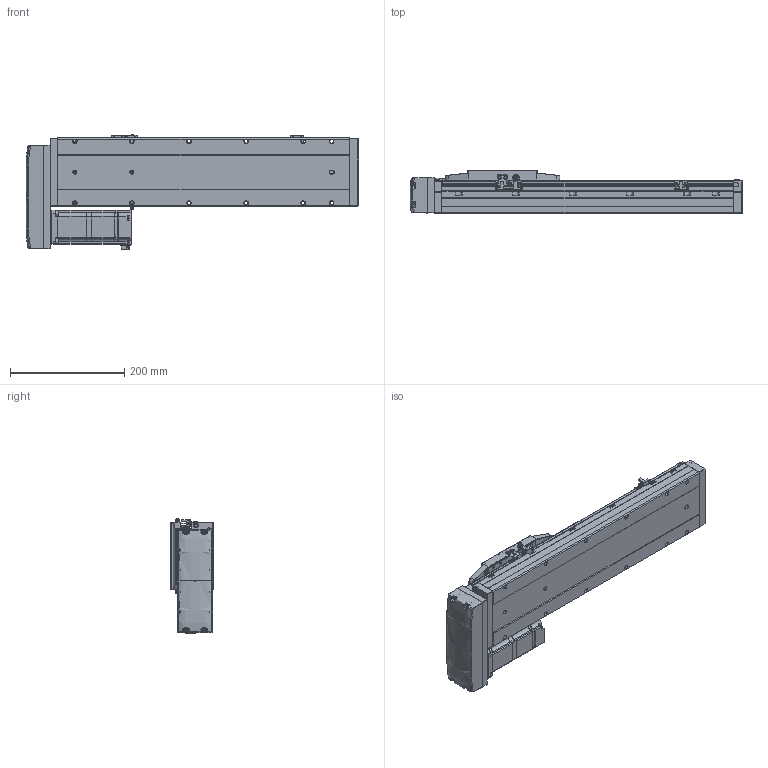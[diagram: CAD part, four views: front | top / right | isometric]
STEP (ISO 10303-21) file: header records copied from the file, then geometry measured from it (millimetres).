
FILE_DESCRIPTION (( 'STEP AP214' ), '1' );
FILE_NAME ('CTH12-L10-S300-BR-C40（简）.STEP', '2023-02-04T07:09:07', ( '' ), ( '' ), 'SwSTEP 2.0', 'SolidWorks 2018', '' );
FILE_SCHEMA (( 'AUTOMOTIVE_DESIGN' ));
Length unit declared in the file: millimetre
Products named in the file (24): CTH12-BL_body_4; CTH12賑怢ㄗ潠ㄘ; CTH12底座-L511简（300行程）; 湮賑怢  裔赽-1(CTH12)賑怢; 内六角圆柱头螺钉M3; CTH12賑怢郪磁; CTH12耜蚾裔; hex nuts, style 1-grades ab gb_GB_FASTENER_NUT_SNAB1 M3-N; CTH12_body_3; CTH400W假蚾啣; CTH400W垫板（3个厚）; CTH12; PM-Y45; CTH嫖萇羲壽假蚾啣; 嫖萇羲壽郪磁1; CTH12-L10-S300-BR-C40（简）; CTH12侧装连接板（标准）简; 蚐郲; AC60_Valor predeterminado; 内六角圆柱头螺钉M3-1; M5蹟隊; CTH12覜茼え; 内六角圆柱头螺钉M3-2; 嫖萇羲壽郪磁2
Assembly tree (44 placements, depth 4):
  CTH12-L10-S300-BR-C40（简）
    CTH12底座-L511简（300行程）
    蚐郲  x2
    CTH12_body_3
    CTH12-BL_body_4
    CTH12侧装连接板（标准）简
    CTH12耜蚾裔
    CTH12賑怢郪磁
      CTH12
        湮賑怢  裔赽-1(CTH12)賑怢
        CTH12賑怢ㄗ潠ㄘ
    CTH12覜茼え
    嫖萇羲壽郪磁1  x2
      CTH嫖萇羲壽假蚾啣
      PM-Y45
      内六角圆柱头螺钉M3-2
      内六角圆柱头螺钉M3-1
      hex nuts, style 1-grades ab gb_GB_FASTENER_NUT_SNAB1 M3-N
    嫖萇羲壽郪磁2
      CTH嫖萇羲壽假蚾啣
      PM-Y45
      内六角圆柱头螺钉M3-1  x2
      内六角圆柱头螺钉M3-2  x2
      hex nuts, style 1-grades ab gb_GB_FASTENER_NUT_SNAB1 M3-N  x2
    CTH400W垫板（3个厚）
    AC60_Valor predeterminado
    内六角圆柱头螺钉M3  x6
    M5蹟隊  x4
    CTH400W假蚾啣
Bounding box: 581.5 x 76 x 201.06 mm (x, y, z)
Volume: 4365345 mm3; surface area: 497508.5 mm2
Topology: 47 solids, 48 shells, 2702 faces, 6881 edges, 4397 vertices
Faces by surface type: plane 1487, cylinder 762, cone 307, bspline 94, torus 52
Entity records: 77509 total; most frequent: CARTESIAN_POINT 21102, ORIENTED_EDGE 10942, DIRECTION 10626, EDGE_CURVE 5471, AXIS2_PLACEMENT_3D 3584, VERTEX_POINT 3501, LINE 3458, VECTOR 3458
